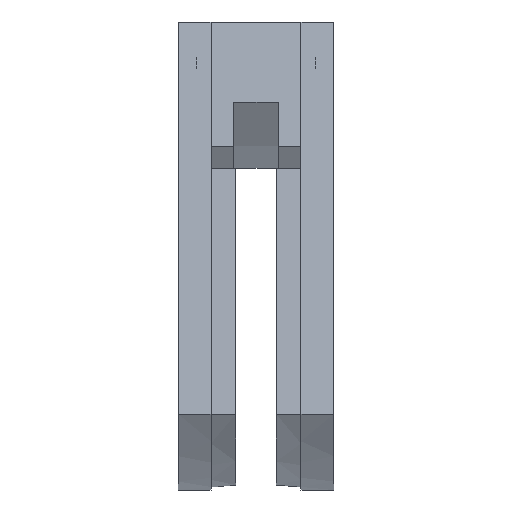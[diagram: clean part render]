
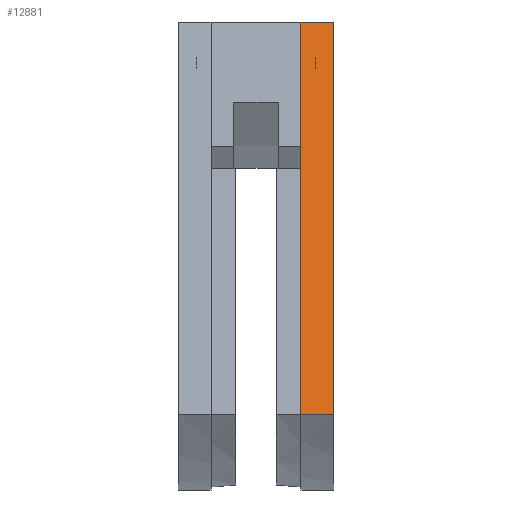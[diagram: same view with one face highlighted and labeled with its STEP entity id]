
A CAD part, left-side view. The second image highlights one B-rep face of the part: STEP entity #12881.
In plain terms, the highlighted planar face has unit normal (-0.978, 0, 0.208).
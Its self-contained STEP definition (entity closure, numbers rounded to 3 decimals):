
#204 = EDGE_CURVE ( 'Defeatured_0_3+Defeatured_0_10+Defeatured_0_6+Defeatured_0_1', #23163, #20961, #6218, .T. ) ;
#462 = CARTESIAN_POINT ( 'NONE',  ( -176.725, -30., -831.425 ) ) ;
#906 = EDGE_CURVE ( 'Defeatured_0_11+Defeatured_0_10+Defeatured_0_13+Defeatured_0_8', #8582, #21011, #22329, .T. ) ;
#908 = PLANE ( 'NONE',  #3357 ) ;
#1152 = VECTOR ( 'NONE', #4030, 1000. ) ;
#1509 = CARTESIAN_POINT ( 'NONE',  ( -156.35, -30., -735.567 ) ) ;
#1555 = CARTESIAN_POINT ( 'NONE',  ( -176.725, -22., -831.425 ) ) ;
#2207 = EDGE_CURVE ( 'Defeatured_0_10+Defeatured_0_8+Defeatured_0_3+Defeatured_0_11', #23163, #21011, #9263, .T. ) ;
#2355 = EDGE_CURVE ( 'Defeatured_0_13+Defeatured_0_10+Defeatured_0_9+Defeatured_0_11', #3555, #8582, #19459, .T. ) ;
#3282 = DIRECTION ( 'NONE',  ( -0.208, 0., -0.978 ) ) ;
#3357 = AXIS2_PLACEMENT_3D ( 'NONE', #1509, #13984, #5196 ) ;
#3555 = VERTEX_POINT ( 'NONE', #16841 ) ;
#3670 = VECTOR ( 'NONE', #4914, 1000. ) ;
#4030 = DIRECTION ( 'NONE',  ( 0., 1., 0. ) ) ;
#4554 = VECTOR ( 'NONE', #7655, 1000. ) ;
#4914 = DIRECTION ( 'NONE',  ( 0., 1., 0. ) ) ;
#5196 = DIRECTION ( 'NONE',  ( 0.208, 0., 0.978 ) ) ;
#5394 = VECTOR ( 'NONE', #3282, 1000. ) ;
#5522 = ORIENTED_EDGE ( 'NONE', *, *, #9401, .T. ) ;
#6063 = ORIENTED_EDGE ( 'NONE', *, *, #906, .F. ) ;
#6107 = CARTESIAN_POINT ( 'NONE',  ( -156.35, -22., -735.567 ) ) ;
#6218 = LINE ( 'NONE', #6107, #4554 ) ;
#6629 = FACE_OUTER_BOUND ( 'NONE', #20770, .T. ) ;
#7655 = DIRECTION ( 'NONE',  ( 0.208, 0., 0.978 ) ) ;
#8582 = VERTEX_POINT ( 'NONE', #462 ) ;
#9263 = LINE ( 'NONE', #18512, #20192 ) ;
#9401 = EDGE_CURVE ( 'Defeatured_0_10+Defeatured_0_9+Defeatured_0_13+Defeatured_0_3', #3555, #20961, #21185, .T. ) ;
#11027 = ORIENTED_EDGE ( 'NONE', *, *, #2207, .T. ) ;
#12881 = ADVANCED_FACE ( 'Defeatured_0_10', ( #6629 ), #908, .F. ) ;
#13919 = CARTESIAN_POINT ( 'NONE',  ( -162.795, -22., -765.89 ) ) ;
#13984 = DIRECTION ( 'NONE',  ( 0.978, 0., -0.208 ) ) ;
#15048 = ORIENTED_EDGE ( 'NONE', *, *, #204, .F. ) ;
#16841 = CARTESIAN_POINT ( 'NONE',  ( -156.35, -30., -735.567 ) ) ;
#17026 = CARTESIAN_POINT ( 'NONE',  ( -156.35, -22., -735.567 ) ) ;
#18394 = DIRECTION ( 'NONE',  ( -0.208, 0., -0.978 ) ) ;
#18512 = CARTESIAN_POINT ( 'NONE',  ( -156.35, -22., -735.567 ) ) ;
#19459 = LINE ( 'NONE', #20995, #5394 ) ;
#19948 = ORIENTED_EDGE ( 'NONE', *, *, #2355, .F. ) ;
#20192 = VECTOR ( 'NONE', #18394, 1000. ) ;
#20770 = EDGE_LOOP ( 'NONE', ( #15048, #11027, #6063, #19948, #5522 ) ) ;
#20841 = CARTESIAN_POINT ( 'NONE',  ( -156.35, -30., -735.567 ) ) ;
#20961 = VERTEX_POINT ( 'NONE', #17026 ) ;
#20995 = CARTESIAN_POINT ( 'NONE',  ( -156.35, -30., -735.567 ) ) ;
#21011 = VERTEX_POINT ( 'NONE', #1555 ) ;
#21185 = LINE ( 'NONE', #20841, #3670 ) ;
#22329 = LINE ( 'NONE', #22442, #1152 ) ;
#22442 = CARTESIAN_POINT ( 'NONE',  ( -176.725, -30., -831.425 ) ) ;
#23163 = VERTEX_POINT ( 'NONE', #13919 ) ;
